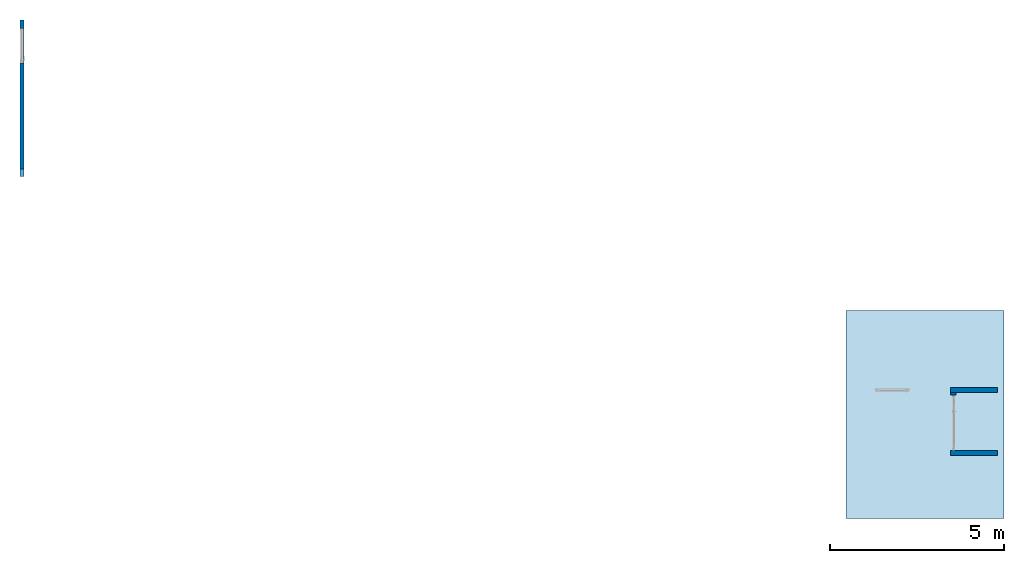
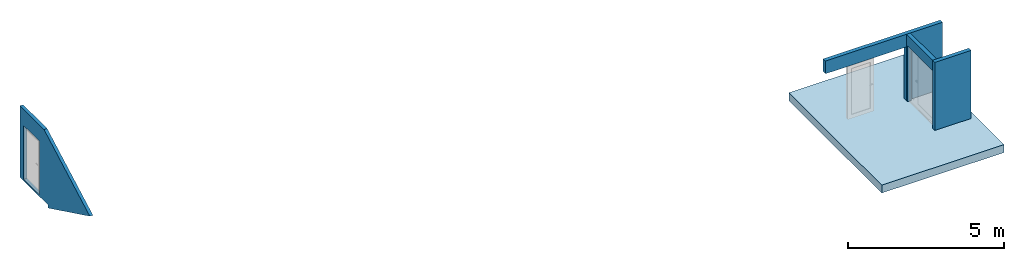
# One storey, part 1 of 2: 4 walls, 1 slab, 7 openings.
"""IFC2X3 building model written with IfcOpenShell, lengths in millimetres."""

from ifc_helpers import new_model, entity, si_unit, converted_unit, derived_unit, direction, frame, frame_2d, origin, place, context, subcontext, project, spatial, polyline, rectangle, outline, extrude, clip, halfspace, material, layer, layer_set, layer_usage, type_object, element, save


model = new_model("IFC2X3")

# Units and contexts
model_context = context("Model", 3, precision=0.01, world=origin(), true_north=direction((6.12303176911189e-17, 1.0)))
body_context = subcontext(model_context, "Body", "Model", "MODEL_VIEW")
ifc_project = project(units=[si_unit("LENGTHUNIT", "METRE", prefix="MILLI"), si_unit("AREAUNIT", "SQUARE_METRE"), si_unit("VOLUMEUNIT", "CUBIC_METRE"), converted_unit("PLANEANGLEUNIT", "DEGREE", entity("IfcRatioMeasure", 0.0174532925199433), si_unit("PLANEANGLEUNIT", "RADIAN"), dimensions=[0, 0, 0, 0, 0, 0, 0]), si_unit("MASSUNIT", "GRAM", prefix="KILO"), derived_unit("MASSDENSITYUNIT", [(si_unit("MASSUNIT", "GRAM", prefix="KILO"), 1), (si_unit("LENGTHUNIT", "METRE"), -3)]), si_unit("TIMEUNIT", "SECOND"), si_unit("FREQUENCYUNIT", "HERTZ"), si_unit("THERMODYNAMICTEMPERATUREUNIT", "DEGREE_CELSIUS"), derived_unit("THERMALTRANSMITTANCEUNIT", [(si_unit("MASSUNIT", "GRAM", prefix="KILO"), 1), (si_unit("THERMODYNAMICTEMPERATUREUNIT", "KELVIN"), -1), (si_unit("TIMEUNIT", "SECOND"), -3)]), derived_unit("VOLUMETRICFLOWRATEUNIT", [(si_unit("LENGTHUNIT", "METRE"), 3), (si_unit("TIMEUNIT", "SECOND"), -1)]), si_unit("ELECTRICCURRENTUNIT", "AMPERE"), si_unit("ELECTRICVOLTAGEUNIT", "VOLT"), si_unit("POWERUNIT", "WATT"), si_unit("FORCEUNIT", "NEWTON", prefix="KILO"), si_unit("ILLUMINANCEUNIT", "LUX"), si_unit("LUMINOUSFLUXUNIT", "LUMEN"), si_unit("LUMINOUSINTENSITYUNIT", "CANDELA"), derived_unit("USERDEFINED", [(si_unit("MASSUNIT", "GRAM", prefix="KILO"), -1), (si_unit("LENGTHUNIT", "METRE"), -2), (si_unit("TIMEUNIT", "SECOND"), 3), (si_unit("LUMINOUSFLUXUNIT", "LUMEN"), 1)]), derived_unit("LINEARVELOCITYUNIT", [(si_unit("LENGTHUNIT", "METRE"), 1), (si_unit("TIMEUNIT", "SECOND"), -1)]), si_unit("PRESSUREUNIT", "PASCAL"), derived_unit("USERDEFINED", [(si_unit("LENGTHUNIT", "METRE"), -2), (si_unit("MASSUNIT", "GRAM", prefix="KILO"), 1), (si_unit("TIMEUNIT", "SECOND"), -2)]), derived_unit("LINEARFORCEUNIT", [(si_unit("MASSUNIT", "GRAM", prefix="KILO"), 1), (si_unit("LENGTHUNIT", "METRE"), 1), (si_unit("TIMEUNIT", "SECOND"), -2), (si_unit("LENGTHUNIT", "METRE"), -1)]), derived_unit("PLANARFORCEUNIT", [(si_unit("MASSUNIT", "GRAM", prefix="KILO"), 1), (si_unit("LENGTHUNIT", "METRE"), 1), (si_unit("TIMEUNIT", "SECOND"), -2), (si_unit("LENGTHUNIT", "METRE"), -2)])], contexts=[model_context])

# Site, building, storey
site_placement = place(None, origin())
site = spatial("IfcSite", under=ifc_project, at=site_placement, Name="Default", CompositionType="ELEMENT")
building_placement = place(site_placement, origin())
building = spatial("IfcBuilding", under=site, at=building_placement, Name="SMA ARH", CompositionType="ELEMENT")
storey_placement = place(building_placement, frame((0.0, 0.0, -1270.0)))
storey = spatial("IfcBuildingStorey", under=building, at=storey_placement, Name="Sissepääs", CompositionType="ELEMENT", Elevation=-1270.0)

# Slab
ifc_material_1 = material(Name="EST. Betoon. Armeeritud. Kohtvalu")
ifc_layer_1 = layer(ifc_material_1, 60.0)
ifc_material_2 = material(Name="EST. Soojustus. Mineraalvill. Default")
ifc_layer_2 = layer(ifc_material_2, 30.0)
ifc_material_3 = material(Name="EST. Betoon. Armeeritud. Monteeritav(1)")
ifc_layer_3 = layer(ifc_material_3, 220.0)
ifc_layer_set_1 = layer_set([ifc_layer_1, ifc_layer_2, ifc_layer_3], Name="Floor:VL-00_R/B 370mm")
ifc_layer_usage_1 = layer_usage(ifc_layer_set_1, "AXIS3", "POSITIVE", 0.0)
slab_type = type_object("IfcSlabType", Name="Floor:VL-00_R/B 370mm", PredefinedType="FLOOR", material=ifc_layer_set_1)
slab_placement = place(storey_placement, origin())
element("IfcSlab", 1, at=slab_placement, inside=storey, type_object=slab_type, material=ifc_layer_usage_1, Name="Floor:VL-00_R/B 370mm", ObjectType="Floor:VL-00_R/B 370mm", PredefinedType="FLOOR", context=body_context, shape_type="SweptSolid", body=[
    extrude(rectangle(XDim=5970.00000000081, YDim=4533.09900086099, at=frame_2d((3.63797880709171e-12, -4.32009983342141e-12), x_axis=(1.0, 0.0))), frame((36131.5495004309, 2985.0, -70.0), z_axis=(0.0, 0.0, -1.0), x_axis=(0.0, 1.0, 0.0)), (0.0, 0.0, 1.0), 310.0),
])

# Wall, openings
ifc_material_4 = material(Name="EST. Ehitusplaat. Kipsplaat")
ifc_layer_4 = layer(ifc_material_4, 12.5)
ifc_layer_5 = layer(ifc_material_4, 12.5)
ifc_layer_6 = layer(ifc_material_2, 66.0)
ifc_layer_7 = layer(ifc_material_4, 12.5)
ifc_layer_8 = layer(ifc_material_4, 12.5)
ifc_layer_set_2 = layer_set([ifc_layer_4, ifc_layer_5, ifc_layer_6, ifc_layer_7, ifc_layer_8], Name="Basic Wall:SS-05_Kips, 66mm metallkarkass")
ifc_layer_usage_2 = layer_usage(ifc_layer_set_2, "AXIS2", "NEGATIVE", 58.0)
wall_type_1 = type_object("IfcWallType", Name="Basic Wall:SS-05_Kips, 66mm metallkarkass", PredefinedType="STANDARD", material=ifc_layer_set_2)
wall_1_placement = place(storey_placement, frame((10221.1462417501, 14300.5336182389, -246.31669515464), z_axis=(0.0, 0.0, 1.0), x_axis=(0.0, -1.0, 0.0)))
wall_1 = element("IfcWallStandardCase", 2, at=wall_1_placement, inside=storey, type_object=wall_type_1, material=ifc_layer_usage_2, Name="Basic Wall:SS-05_Kips, 66mm metallkarkass", ObjectType="Basic Wall:SS-05_Kips, 66mm metallkarkass", context=body_context, shape_type="Clipping", body=[
    clip(clip(clip(extrude(rectangle(XDim=4483.62214650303, YDim=116.0, at=frame_2d((2241.81107325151, 5.47117906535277e-13), x_axis=(-1.0, 0.0))), origin(), (0.0, 0.0, 1.0), 2916.31669515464), halfspace(frame((4483.62214650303, -58.0, 1302.14186309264), z_axis=(0.437919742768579, 0.0, -0.899014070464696), x_axis=(0.0, 1.0, 0.0)), False)), halfspace(frame((1541.70566141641, -58.0, 2916.31669515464), z_axis=(0.481030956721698, 0.0, 0.87670360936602), x_axis=(0.0, 1.0, 0.0)), False)), halfspace(frame((1810.42945311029, 0.0, 0.0), z_axis=(-0.0641159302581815, 0.0, -0.99794245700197), x_axis=(0.0, -1.0, 0.0)), False)),
])
opening_1_placement = place(wall_1_placement, origin())
element("IfcOpeningElement", 3, at=opening_1_placement, cuts=wall_1, Name="Basic Wall:SS-05_Kips, 66mm metallkarkass", ObjectType="Opening", context=body_context, shape_type="SweptSolid", body=[
    extrude(outline(polyline([(-77.5444634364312, -603.476484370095), (38.7722317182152, -603.476484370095), (38.7722317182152, 1206.95296874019), (-77.5444634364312, -603.476484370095)])), frame((1206.95296874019, 58.0, 77.5444634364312), z_axis=(0.0, -1.0, 0.0), x_axis=(0.0, 0.0, 1.0)), (0.0, 0.0, 1.0), 116.0),
])
opening_2_placement = place(wall_1_placement, frame((240.529038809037, -58.0, 176.316695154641)))
element("IfcOpeningElement", 4, at=opening_2_placement, cuts=wall_1, Name="SMA_D01, 1-poolne:SU-M-02 - 1000x2100 EI-30:1", ObjectType="Opening", context=body_context, shape_type="SweptSolid", body=[
    extrude(rectangle(XDim=2099.99999999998, YDim=1000.0, at=frame_2d((1049.99999999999, 500.0), x_axis=(1.0, 0.0))), frame((0.0, 0.0, 0.0), z_axis=(0.0, 1.0, 0.0), x_axis=(0.0, 0.0, 1.0)), (0.0, 0.0, 1.0), 116.0),
])

ifc_layer_9 = layer(ifc_material_4, 12.5)
ifc_layer_10 = layer(ifc_material_4, 12.5)
ifc_material_5 = material(Name="EST. Õhkvahe. Roov. Kipsplaadi alusroov. Vertikaalne")
ifc_layer_11 = layer(ifc_material_5, 95.0)
ifc_layer_12 = layer(ifc_material_4, 12.5)
ifc_layer_13 = layer(ifc_material_4, 12.5)
ifc_layer_set_3 = layer_set([ifc_layer_9, ifc_layer_10, ifc_layer_11, ifc_layer_12, ifc_layer_13], Name="Basic Wall:SS-04_Kips, 95mm metallkarkass")
ifc_layer_usage_3 = layer_usage(ifc_layer_set_3, "AXIS2", "NEGATIVE", 72.5)
wall_type_2 = type_object("IfcWallType", Name="Basic Wall:SS-04_Kips, 95mm metallkarkass", PredefinedType="STANDARD", material=ifc_layer_set_3)
wall_2_placement = place(storey_placement, frame((33865.0, 3690.0, 0.0)))
wall_2 = element("IfcWallStandardCase", 5, at=wall_2_placement, inside=storey, type_object=wall_type_2, material=ifc_layer_usage_3, Name="Basic Wall:SS-04_Kips, 95mm metallkarkass", ObjectType="Basic Wall:SS-04_Kips, 95mm metallkarkass", context=body_context, shape_type="SweptSolid", body=[
    extrude(rectangle(XDim=4350.0, YDim=145.0, at=frame_2d((2175.0, 4.2632564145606e-14), x_axis=(-1.0, 0.0))), origin(), (0.0, 0.0, 1.0), 2600.0),
])
opening_3_placement = place(wall_2_placement, origin())
element("IfcOpeningElement", 6, at=opening_3_placement, cuts=wall_2, Name="Basic Wall:SS-04_Kips, 95mm metallkarkass", ObjectType="Opening", context=body_context, shape_type="SweptSolid", body=[
    extrude(rectangle(XDim=2099.99999999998, YDim=1180.0, at=frame_2d((0.0, 0.0), x_axis=(0.0, 1.0))), frame((2415.0, -224.900000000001, 1050.0), z_axis=(0.0, 1.0, 0.0), x_axis=(-1.0, 0.0, 0.0)), (0.0, 0.0, 1.0), 449.8),
])
opening_4_placement = place(wall_2_placement, origin())
element("IfcOpeningElement", 7, at=opening_4_placement, cuts=wall_2, Name="Basic Wall:SS-04_Kips, 95mm metallkarkass", ObjectType="Opening", context=body_context, shape_type="SweptSolid", body=[
    extrude(rectangle(XDim=2099.99999999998, YDim=824.999999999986, at=frame_2d((0.0, 0.0), x_axis=(0.0, 1.0))), frame((412.499999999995, -224.900000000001, 1050.0), z_axis=(0.0, 1.0, 0.0), x_axis=(-1.0, 0.0, 0.0)), (0.0, 0.0, 1.0), 449.8),
])
opening_5_placement = place(wall_2_placement, origin())
element("IfcOpeningElement", 8, at=opening_5_placement, cuts=wall_2, Name="Basic Wall:SS-04_Kips, 95mm metallkarkass", ObjectType="Opening", context=body_context, shape_type="SweptSolid", body=[
    extrude(rectangle(XDim=299.999999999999, YDim=540.000000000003, at=frame_2d((2.1600499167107e-12, 0.0), x_axis=(0.0, 1.0))), frame((2685.0, 72.5000000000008, 1050.0), z_axis=(0.0, -1.0, 0.0), x_axis=(1.0, 0.0, 0.0)), (0.0, 0.0, 1.0), 145.0),
])
opening_6_placement = place(wall_2_placement, frame((1825.0, 72.5000000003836, 0.0)))
element("IfcOpeningElement", 9, at=opening_6_placement, cuts=wall_2, Name="SMA_D01, 1-poolne:SU-P-03 - 1000x2100:1", ObjectType="Opening", context=body_context, shape_type="SweptSolid", body=[
    extrude(rectangle(XDim=2099.99999999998, YDim=1000.0, at=frame_2d((1049.99999999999, 500.0), x_axis=(1.0, 0.0))), frame((0.0, 0.0, 0.0), z_axis=(0.0, -1.0, 0.0), x_axis=(0.0, 0.0, 1.0)), (0.0, 0.0, 1.0), 145.0),
])

# Wall
ifc_layer_usage_4 = layer_usage(ifc_layer_set_3, "AXIS2", "NEGATIVE", 72.5)
wall_3_placement = place(storey_placement, frame((36870.0, 1870.0, -70.0)))
element("IfcWallStandardCase", 10, at=wall_3_placement, inside=storey, type_object=wall_type_2, material=ifc_layer_usage_4, Name="Basic Wall:SS-04_Kips, 95mm metallkarkass", ObjectType="Basic Wall:SS-04_Kips, 95mm metallkarkass", context=body_context, shape_type="SweptSolid", body=[
    extrude(rectangle(XDim=1345.0, YDim=145.0, at=frame_2d((672.500000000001, -9.2370555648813e-14), x_axis=(-1.0, 0.0))), origin(), (0.0, 0.0, 1.0), 2670.0),
])

# Wall, opening
ifc_layer_usage_5 = layer_usage(ifc_layer_set_3, "AXIS2", "NEGATIVE", 72.5)
wall_4_placement = place(storey_placement, frame((36942.5000000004, 1942.49999999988, 0.0), z_axis=(0.0, 0.0, 1.0), x_axis=(0.0, 1.0, 0.0)))
wall_4 = element("IfcWallStandardCase", 11, at=wall_4_placement, inside=storey, type_object=wall_type_2, material=ifc_layer_usage_5, Name="Basic Wall:SS-04_Kips, 95mm metallkarkass", ObjectType="Basic Wall:SS-04_Kips, 95mm metallkarkass", context=body_context, shape_type="SweptSolid", body=[
    extrude(rectangle(XDim=1675.0000000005, YDim=145.000000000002, at=frame_2d((837.500000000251, -8.5265128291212e-14), x_axis=(-1.0, 0.0))), origin(), (0.0, 0.0, 1.0), 2600.0),
])
opening_7_placement = place(wall_4_placement, frame((1600.0, 72.5000000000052, 0.0)))
element("IfcOpeningElement", 12, at=opening_7_placement, cuts=wall_4, Name="SMA_D02, 2-poolne:SU-AL-04 - 1600x2100:1", ObjectType="Opening", context=body_context, shape_type="SweptSolid", body=[
    extrude(rectangle(XDim=2189.99999999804, YDim=1600.0, at=frame_2d((1094.99999999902, 800.0), x_axis=(1.0, 0.0))), frame((0.0, 0.0, 0.0), z_axis=(0.0, -1.0, 0.0), x_axis=(0.0, 0.0, 1.0)), (0.0, 0.0, 1.0), 145.0),
])

save(model, "model.ifc")
